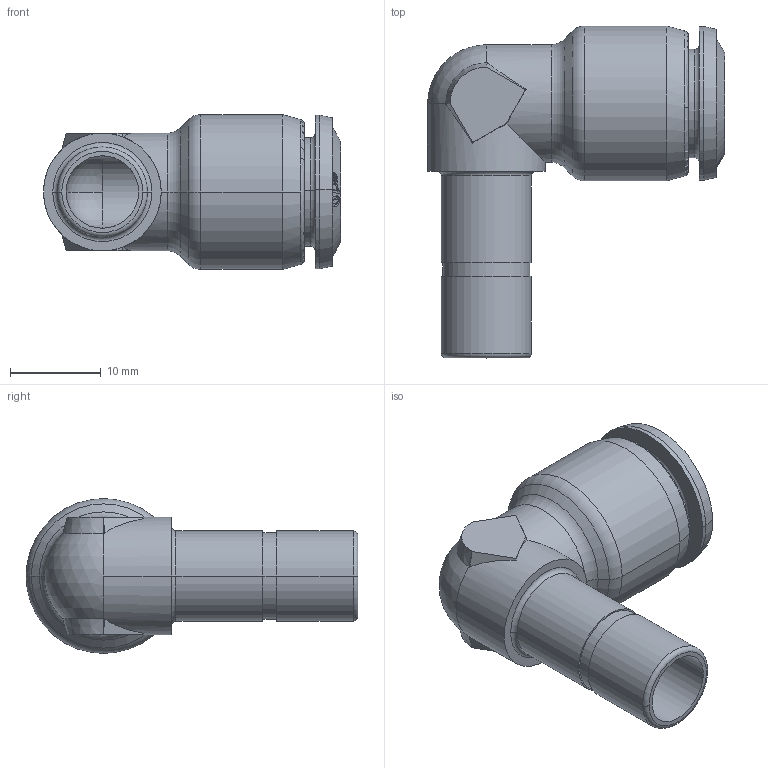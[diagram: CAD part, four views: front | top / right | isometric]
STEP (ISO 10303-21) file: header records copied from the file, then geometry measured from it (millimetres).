
FILE_DESCRIPTION (( 'STEP AP214' ), '1' );
FILE_NAME ('5514000009.STEP', '2024-10-18T13:31:41', ( '' ), ( '' ), 'SwSTEP 2.0', 'SolidWorks 2020', '' );
FILE_SCHEMA (( 'AUTOMOTIVE_DESIGN' ));
Length unit declared in the file: millimetre
Products named in the file (1): 5514000009
Bounding box: 32.8 x 36.65 x 17.1 mm (x, y, z)
Volume: 4046 mm3; surface area: 4115.1 mm2
Topology: 1 solids, 1 shells, 123 faces, 295 edges, 182 vertices
Faces by surface type: bspline 40, cone 25, cylinder 22, plane 21, torus 12, sphere 3
Entity records: 7715 total; most frequent: CARTESIAN_POINT 3841, ORIENTED_EDGE 586, DIRECTION 400, EDGE_CURVE 293, VERTEX_POINT 182, AXIS2_PLACEMENT_3D 171, EDGE_LOOP 135, B_SPLINE_CURVE_WITH_KNOTS 132
